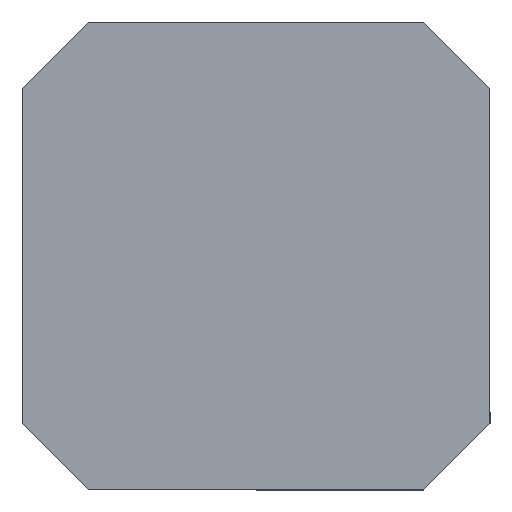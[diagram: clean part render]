
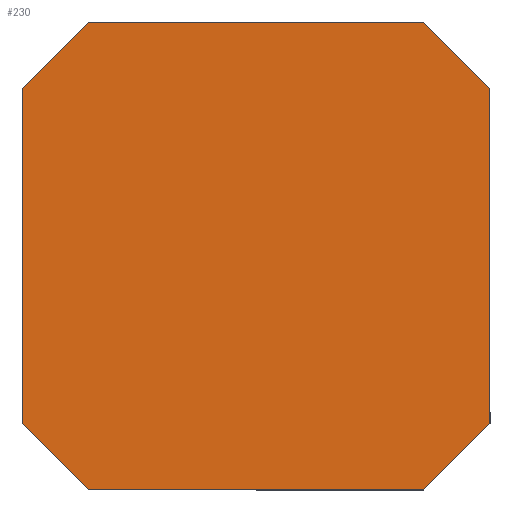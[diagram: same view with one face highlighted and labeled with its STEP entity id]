
A CAD part, front view. The second image highlights one B-rep face of the part: STEP entity #230.
In plain terms, the highlighted planar face has unit normal (0, -1, 0).
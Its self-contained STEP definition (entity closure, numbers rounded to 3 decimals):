
#134 = ORIENTED_EDGE ( 'NONE', *, *, #246, .T. ) ;
#135 = ORIENTED_EDGE ( 'NONE', *, *, #354, .T. ) ;
#136 = ORIENTED_EDGE ( 'NONE', *, *, #137, .T. ) ;
#137 = EDGE_CURVE ( 'NONE', #352, #383, #672, .T. ) ;
#140 = ORIENTED_EDGE ( 'NONE', *, *, #658, .T. ) ;
#141 = ORIENTED_EDGE ( 'NONE', *, *, #234, .T. ) ;
#224 = EDGE_LOOP ( 'NONE', ( #135, #136, #282, #134, #257, #275, #140, #141 ) ) ;
#230 = ADVANCED_FACE ( 'NONE', ( #834 ), #830, .T. ) ;
#234 = EDGE_CURVE ( 'NONE', #557, #355, #817, .T. ) ;
#246 = EDGE_CURVE ( 'NONE', #421, #695, #735, .T. ) ;
#257 = ORIENTED_EDGE ( 'NONE', *, *, #691, .T. ) ;
#275 = ORIENTED_EDGE ( 'NONE', *, *, #276, .T. ) ;
#276 = EDGE_CURVE ( 'NONE', #696, #558, #874, .T. ) ;
#282 = ORIENTED_EDGE ( 'NONE', *, *, #324, .T. ) ;
#324 = EDGE_CURVE ( 'NONE', #383, #421, #938, .T. ) ;
#352 = VERTEX_POINT ( 'NONE', #1099 ) ;
#354 = EDGE_CURVE ( 'NONE', #355, #352, #1036, .T. ) ;
#355 = VERTEX_POINT ( 'NONE', #1037 ) ;
#383 = VERTEX_POINT ( 'NONE', #1120 ) ;
#421 = VERTEX_POINT ( 'NONE', #1041 ) ;
#557 = VERTEX_POINT ( 'NONE', #1283 ) ;
#558 = VERTEX_POINT ( 'NONE', #1282 ) ;
#658 = EDGE_CURVE ( 'NONE', #558, #557, #1340, .T. ) ;
#669 = DIRECTION ( 'NONE',  ( -0.707, 0., -0.707 ) ) ;
#670 = VECTOR ( 'NONE', #669, 1000. ) ;
#671 = CARTESIAN_POINT ( 'NONE',  ( -18.15, -9., -24.15 ) ) ;
#672 = LINE ( 'NONE', #671, #670 ) ;
#691 = EDGE_CURVE ( 'NONE', #695, #696, #1444, .T. ) ;
#695 = VERTEX_POINT ( 'NONE', #1453 ) ;
#696 = VERTEX_POINT ( 'NONE', #1452 ) ;
#732 = DIRECTION ( 'NONE',  ( 0.707, 0., -0.707 ) ) ;
#733 = VECTOR ( 'NONE', #732, 1000. ) ;
#734 = CARTESIAN_POINT ( 'NONE',  ( 3., -9., -39.3 ) ) ;
#735 = LINE ( 'NONE', #734, #733 ) ;
#814 = DIRECTION ( 'NONE',  ( -0.707, 0., 0.707 ) ) ;
#815 = VECTOR ( 'NONE', #814, 1000. ) ;
#816 = CARTESIAN_POINT ( 'NONE',  ( 39.3, -9., -3. ) ) ;
#817 = LINE ( 'NONE', #816, #815 ) ;
#825 = DIRECTION ( 'NONE',  ( 0., 0., -1. ) ) ;
#826 = DIRECTION ( 'NONE',  ( 0., -1., 0. ) ) ;
#827 = AXIS2_PLACEMENT_3D ( 'NONE', #829, #826, #825 ) ;
#829 = CARTESIAN_POINT ( 'NONE',  ( 0., -9., -42.3 ) ) ;
#830 = PLANE ( 'NONE',  #827 ) ;
#834 = FACE_OUTER_BOUND ( 'NONE', #224, .T. ) ;
#873 = CARTESIAN_POINT ( 'NONE',  ( 18.15, -9., -60.45 ) ) ;
#874 = LINE ( 'NONE', #873, #961 ) ;
#937 = CARTESIAN_POINT ( 'NONE',  ( 0., -9., 0. ) ) ;
#938 = LINE ( 'NONE', #937, #1019 ) ;
#960 = DIRECTION ( 'NONE',  ( 0.707, 0., 0.707 ) ) ;
#961 = VECTOR ( 'NONE', #960, 1000. ) ;
#1018 = DIRECTION ( 'NONE',  ( 0., 0., -1. ) ) ;
#1019 = VECTOR ( 'NONE', #1018, 1000. ) ;
#1035 = CARTESIAN_POINT ( 'NONE',  ( 0., -9., 0. ) ) ;
#1036 = LINE ( 'NONE', #1035, #1128 ) ;
#1037 = CARTESIAN_POINT ( 'NONE',  ( 36.3, -9., 0. ) ) ;
#1041 = CARTESIAN_POINT ( 'NONE',  ( 0., -9., -36.3 ) ) ;
#1099 = CARTESIAN_POINT ( 'NONE',  ( 6., -9., 0. ) ) ;
#1120 = CARTESIAN_POINT ( 'NONE',  ( 0., -9., -6. ) ) ;
#1127 = DIRECTION ( 'NONE',  ( -1., 0., 0. ) ) ;
#1128 = VECTOR ( 'NONE', #1127, 1000. ) ;
#1282 = CARTESIAN_POINT ( 'NONE',  ( 42.3, -9., -36.3 ) ) ;
#1283 = CARTESIAN_POINT ( 'NONE',  ( 42.3, -9., -6. ) ) ;
#1337 = DIRECTION ( 'NONE',  ( 0., 0., 1. ) ) ;
#1338 = VECTOR ( 'NONE', #1337, 1000. ) ;
#1339 = CARTESIAN_POINT ( 'NONE',  ( 42.3, -9., 0. ) ) ;
#1340 = LINE ( 'NONE', #1339, #1338 ) ;
#1441 = DIRECTION ( 'NONE',  ( 1., 0., 0. ) ) ;
#1442 = VECTOR ( 'NONE', #1441, 1000. ) ;
#1443 = CARTESIAN_POINT ( 'NONE',  ( 0., -9., -42.3 ) ) ;
#1444 = LINE ( 'NONE', #1443, #1442 ) ;
#1452 = CARTESIAN_POINT ( 'NONE',  ( 36.3, -9., -42.3 ) ) ;
#1453 = CARTESIAN_POINT ( 'NONE',  ( 6., -9., -42.3 ) ) ;
